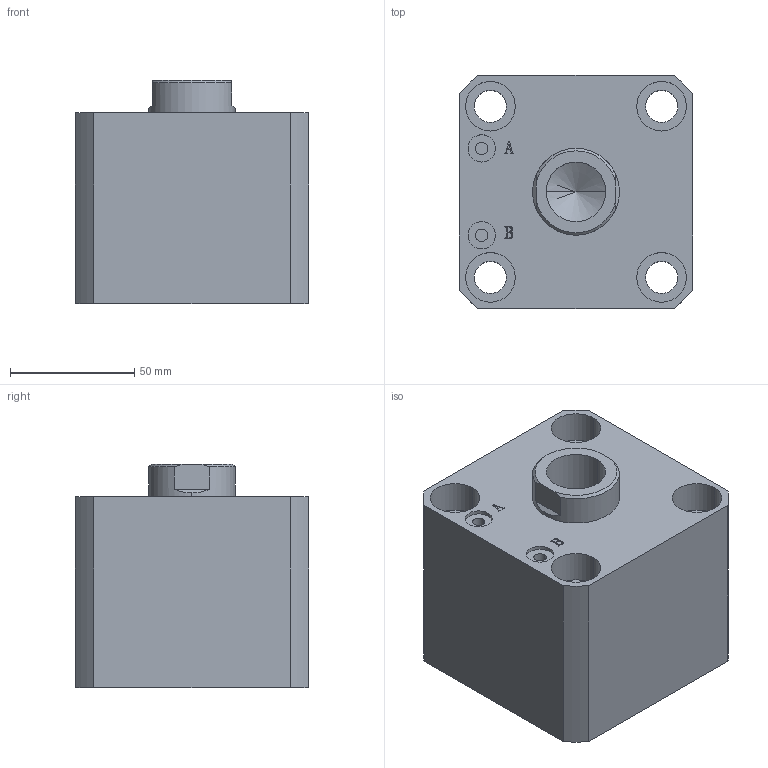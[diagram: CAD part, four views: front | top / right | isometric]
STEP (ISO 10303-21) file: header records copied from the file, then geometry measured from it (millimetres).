
FILE_DESCRIPTION (( 'STEP AP203' ), '1' );
FILE_NAME ('HTB-SDMA63-10N.STEP', '2019-10-08T01:01:11', ( '微软用户' ), ( '微软中国' ), 'SwSTEP 2.0', 'SolidWorks 2012', '' );
FILE_SCHEMA (( 'CONFIG_CONTROL_DESIGN' ));
Length unit declared in the file: millimetre
Products named in the file (3): HTB-SDMA63-10N; HTB-SDMA63-10N活塞杆; HTB-SDMA63-10掛极
Assembly tree (2 placements, depth 2):
  HTB-SDMA63-10N
    HTB-SDMA63-10掛极
    HTB-SDMA63-10N活塞杆
Bounding box: 94 x 94 x 90 mm (x, y, z)
Volume: 584079.4 mm3; surface area: 91728.3 mm2
Topology: 2 solids, 2 shells, 137 faces, 331 edges, 217 vertices
Faces by surface type: plane 65, cylinder 46, bspline 16, torus 6, cone 4
Entity records: 5070 total; most frequent: CARTESIAN_POINT 1576, ORIENTED_EDGE 658, DIRECTION 647, EDGE_CURVE 329, AXIS2_PLACEMENT_3D 232, VERTEX_POINT 217, LINE 183, VECTOR 183
